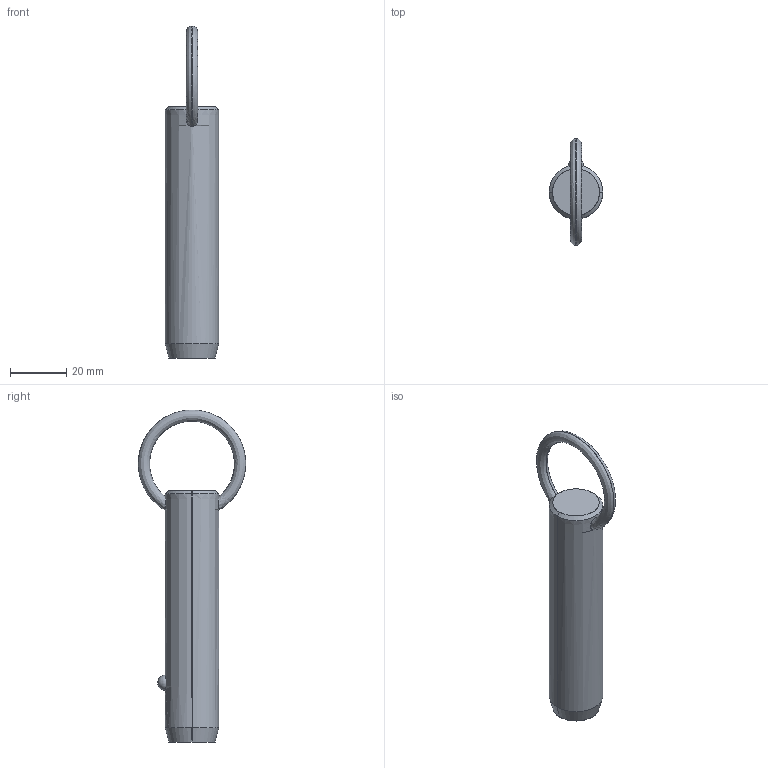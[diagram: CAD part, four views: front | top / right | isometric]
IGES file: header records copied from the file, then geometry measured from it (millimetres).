
Start section: SolidWorks IGES file using analytic representation for surfaces
Global section: file name: C:\Users\liam_\OneDrive\Documents\WORK\Work for WixRoyd\Job Files\J-00019 - Matt Davis CAD Checking\04. CAD Drawings\automotion20190605\P1250.2_v2\P1250.2_v2_20190729_IGES\P1250.075-220.igs; native system: SolidWorks 2017; preprocessor: SolidWorks 2017; author: liam_; date: 190729.234932; units: millimetre
Bounding box: 19 x 38.09 x 117.7 mm (x, y, z)
Surface area: 6851.2 mm2 (no closed solid volume)
Topology: 0 solids, 0 shells, 12 faces, 294 edges, 292 vertices
Faces by surface type: revolution 8, bspline 4
